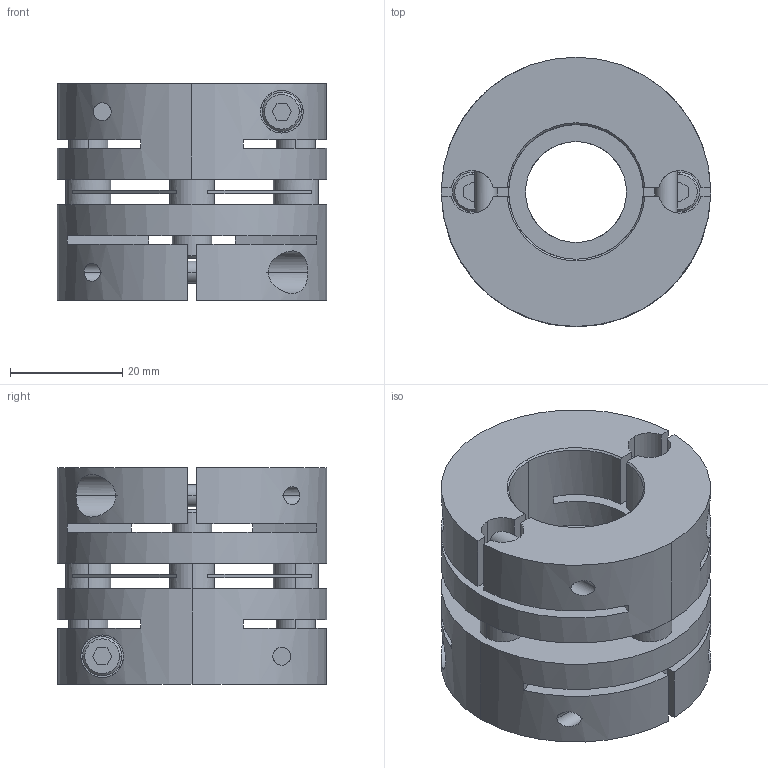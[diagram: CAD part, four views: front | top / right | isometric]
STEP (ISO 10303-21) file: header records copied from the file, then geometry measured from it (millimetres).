
FILE_DESCRIPTION((''),'2;1');
FILE_NAME('LAS-48C-18×24.stp','2015-10-14T15:48:35',(''),(''),'AutoCAD STEP 2000i','AutoCAD 2000i',', , ');
FILE_SCHEMA(('CONFIG_CONTROL_DESIGN'));
Length unit declared in the file: millimetre
Products named in the file (7): LAS-48C-19×19; 忣兜1; LA-4802-D19-1; LA-4802-D19; LA-4802-D12-1; LA-4802-D12; LAS48-ITA
Assembly tree (6 placements, depth 2):
  LAS-48C-19×19
    忣兜1
    LA-4802-D19-1
    LA-4802-D19
    LA-4802-D12-1
    LA-4802-D12
    LAS48-ITA
Bounding box: 48 x 48 x 38.6 mm (x, y, z)
Volume: 44813.7 mm3; surface area: 21440.1 mm2
Topology: 1 solids, 1 shells, 224 faces, 612 edges, 400 vertices
Faces by surface type: plane 112, cylinder 84, cone 28
Entity records: 8075 total; most frequent: CARTESIAN_POINT 2043, DIRECTION 1262, ORIENTED_EDGE 1224, EDGE_CURVE 612, AXIS2_PLACEMENT_3D 459, VERTEX_POINT 400, VECTOR 344, LINE 344
